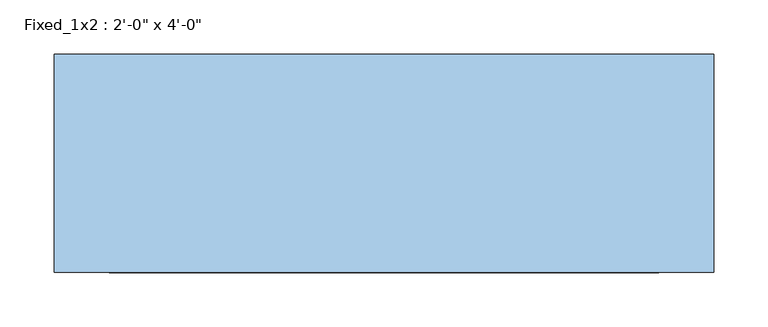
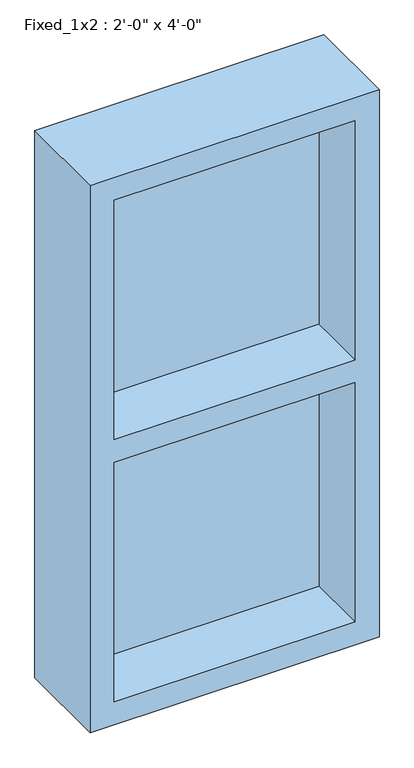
"""IFC4 building model written with IfcOpenShell, lengths in millimetres: window geometry."""

from ifc_helpers import new_model, si_unit, frame, origin, place, context, project, spatial, polyline, outline, extrude, source, transform, mapped, element, save


def window_8445838e(model_context):
    return source(origin(), model_context, "Body", "SweptSolid", [
        extrude(outline(polyline([(-1320.8, 82.9137746), (-812.8, 82.9137746), (-812.8, 57.5137746), (-1320.8, 57.5137746), (-1320.8, 82.9137746)])), frame((0.0, 0.0, 1693.2367551), z_axis=(0.0, 0.0, 1.0), x_axis=(1.0, 0.0, 0.0)), (0.0, 0.0, 1.0), 533.4),
        extrude(outline(polyline([(-1320.8, 82.9137746), (-812.8, 82.9137746), (-812.8, 57.5137746), (-1320.8, 57.5137746), (-1320.8, 82.9137746)])), frame((0.0, 0.0, 1109.0367551), z_axis=(0.0, 0.0, 1.0), x_axis=(1.0, 0.0, 0.0)), (0.0, 0.0, 1.0), 533.4),
        extrude(outline(polyline([(2277.4367551, -1371.6), (1058.2367551, -1371.6), (1058.2367551, -762.0), (2277.4367551, -762.0), (2277.4367551, -1371.6)]), holes=[polyline([(2226.6367551, -1320.8), (2226.6367551, -812.8), (1693.2367551, -812.8), (1693.2367551, -1320.8), (2226.6367551, -1320.8)]), polyline([(1642.4367551, -1320.8), (1642.4367551, -812.8), (1109.0367551, -812.8), (1109.0367551, -1320.8), (1642.4367551, -1320.8)])]), frame((0.0, -74.2487254, 0.0), z_axis=(0.0, 1.0, 0.0), x_axis=(0.0, 0.0, 1.0)), (0.0, 0.0, 1.0), 201.6125),
    ])


if __name__ == "__main__":
    model = new_model("IFC4")
    model_context = context("Model", 3, world=origin())
    ifc_project = project(units=[si_unit("LENGTHUNIT", "METRE", prefix="MILLI")], contexts=[model_context])
    site = spatial("IfcSite", under=ifc_project)
    building = spatial("IfcBuilding", under=site)
    placement = place(None, origin())
    window_shape = window_8445838e(model_context)
    element("IfcWindow", 1, ObjectType="Fixed_1x2 : 2'-0\" x 4'-0\"", at=placement, inside=building, context=model_context, shape_type="MappedRepresentation", body=[
        mapped(window_shape, transform((0.0, 0.0, 0.0), x_axis=(1.0, 0.0, 0.0), y_axis=(0.0, 1.0, 0.0), z_axis=(0.0, 0.0, 1.0))),
    ])
    save(model, "model.ifc")
